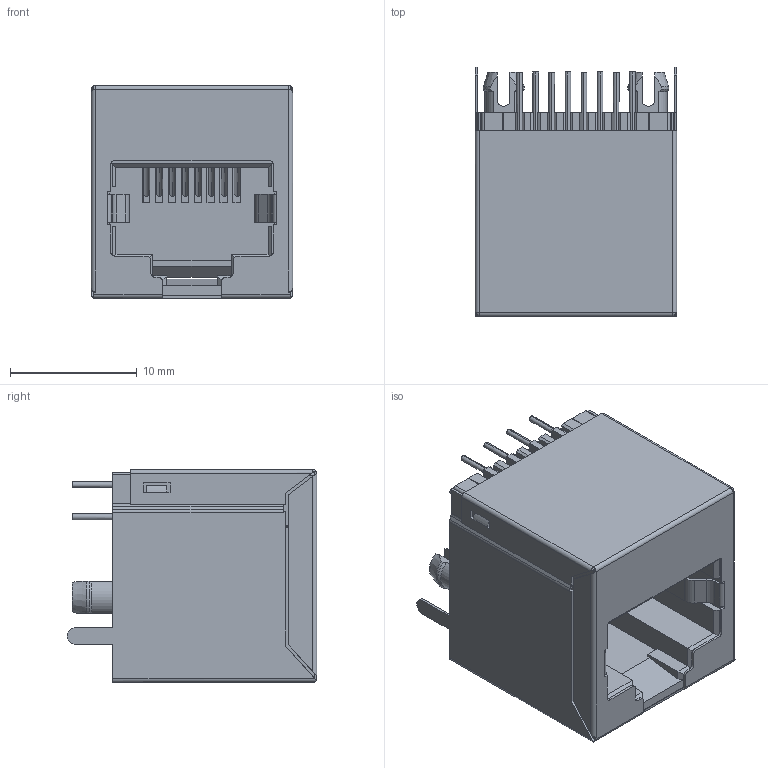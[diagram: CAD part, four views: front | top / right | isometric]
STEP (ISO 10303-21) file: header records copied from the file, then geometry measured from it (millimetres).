
FILE_DESCRIPTION((''),'2;1');
FILE_NAME('DGKYD52241188GWA3D1Y1027','2020-11-12T20:46:12',('Administrator'),(''),'CREO PARAMETRIC BY PTC INC, 2018400','CREO PARAMETRIC BY PTC INC, 2018400','');
FILE_SCHEMA(('CONFIG_CONTROL_DESIGN'));
Length unit declared in the file: millimetre
Products named in the file (1): DGKYD52241188GWA3D1Y1027
Bounding box: 15.9 x 19.7 x 16.8 mm (x, y, z)
Volume: 2509.1 mm3; surface area: 5624.4 mm2
Topology: 1 solids, 1 shells, 656 faces, 1966 edges, 1252 vertices
Faces by surface type: plane 449, cylinder 137, torus 60, cone 8, sphere 2
Entity records: 22245 total; most frequent: CARTESIAN_POINT 4317, ORIENTED_EDGE 3928, DIRECTION 3578, EDGE_CURVE 1964, VECTOR 1502, LINE 1502, VERTEX_POINT 1252, AXIS2_PLACEMENT_3D 1038
